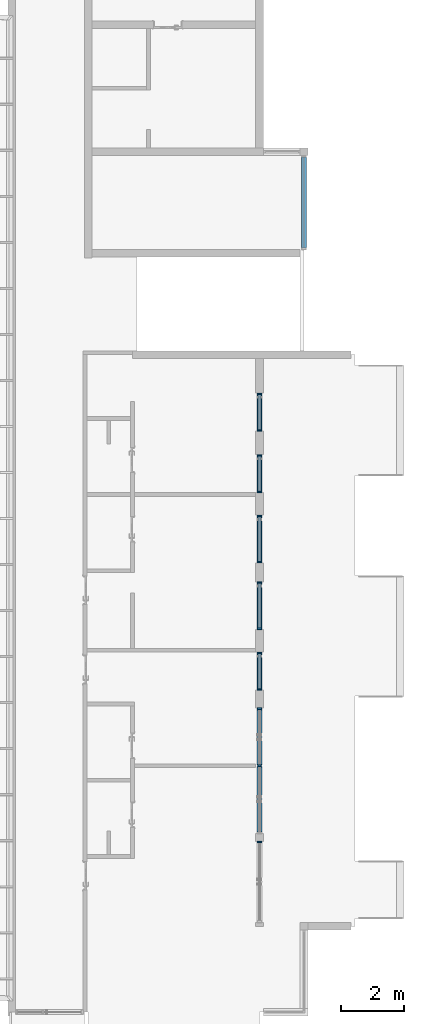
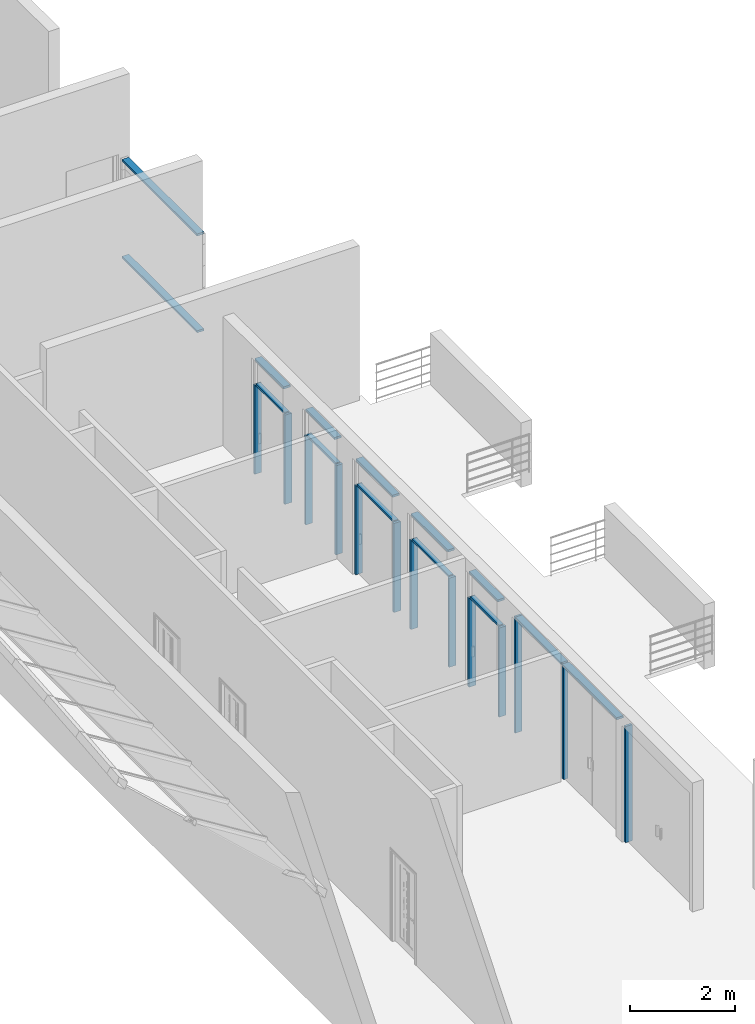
# One storey, part 6 of 33: 27 members, 8 elements without a shape of their own.
"""IFC2X3 building model written with IfcOpenShell, lengths in millimetres."""

import ifcopenshell
import ifcopenshell.guid

model = None  # the IFC model being written
_history = None  # IfcOwnerHistory: only IFC2X3 demands one
_inside = {}  # id of a spatial element -> (the spatial element, [elements in it])
_under = {}  # id of a project, library or spatial element -> (it, [spatial elements below it])
_declared = {}  # id of a project -> (the project, [libraries it declares])
_typed = {}  # id of a type object -> (the type object, [elements of that type])
_made_of = {}  # id of a material, layer set ... -> (it, [elements and type objects made of it])


def new_model(schema):
    """Start an empty IFC model of exactly this schema.

    Asked for "IFC4X3", IfcOpenShell would pick the latest addendum, in which some entities
    have other attributes; the version numbers below select the first issue.
    IFC2X3 requires an IfcOwnerHistory on every rooted entity: one is made here for all.
    """
    global model, _history
    if schema == "IFC4X3":
        model = ifcopenshell.file(schema_version=(4, 3, 0, 0))
    else:
        model = ifcopenshell.file(schema=schema)
    _inside.clear()
    _under.clear()
    _declared.clear()
    _typed.clear()
    _made_of.clear()
    _history = None
    if model.schema == "IFC2X3":
        org = make("IfcOrganization", Name="unknown")
        user = make(
            "IfcPersonAndOrganization",
            ThePerson=make("IfcPerson", FamilyName="unknown"),
            TheOrganization=org,
        )
        app = make(
            "IfcApplication",
            ApplicationDeveloper=org,
            Version="unknown",
            ApplicationFullName="unknown",
            ApplicationIdentifier="unknown",
        )
        _history = make(
            "IfcOwnerHistory",
            OwningUser=user,
            OwningApplication=app,
            ChangeAction="ADDED",
            CreationDate=0,
        )
    return model


def make(cls, **values):
    """One entity of the class cls with the attributes given. An attribute that is None is left unset."""
    return model.create_entity(
        cls, **{name: value for name, value in values.items() if value is not None}
    )


def entity(cls, *values):
    """Any entity or typed value of the class cls, its attributes in the order of the schema. None: left unset."""
    e = model.create_entity(cls)
    for i, value in enumerate(values):
        if value is not None:
            e[i] = value
    return e


def rooted(cls, **values):
    """An entity with a GlobalId (a new one), such as an element, a storey or a relation."""
    return make(cls, GlobalId=ifcopenshell.guid.new(), OwnerHistory=_history, **values)


def si_unit(unit_type, name, prefix=None):
    """IfcSIUnit, for example si_unit("LENGTHUNIT", "METRE", prefix="MILLI")."""
    return make("IfcSIUnit", UnitType=unit_type, Prefix=prefix, Name=name)


def converted_unit(unit_type, name, factor, base, dimensions=None, offset=None):
    """IfcConversionBasedUnit, such as the inch: factor (a typed value) times the base unit."""
    return make(
        "IfcConversionBasedUnit"
        if offset is None
        else "IfcConversionBasedUnitWithOffset",
        ConversionOffset=offset,
        Dimensions=None
        if dimensions is None
        else entity("IfcDimensionalExponents", *dimensions),
        UnitType=unit_type,
        Name=name,
        ConversionFactor=make(
            "IfcMeasureWithUnit", ValueComponent=factor, UnitComponent=base
        ),
    )


def derived_unit(unit_type, elements):
    """IfcDerivedUnit: a product of units, each with its exponent."""
    return make(
        "IfcDerivedUnit",
        Elements=[
            make("IfcDerivedUnitElement", Unit=unit, Exponent=power)
            for unit, power in elements
        ],
        UnitType=unit_type,
    )


def assignment(units):
    """IfcUnitAssignment: the units of a project."""
    return None if units is None else make("IfcUnitAssignment", Units=units)


def point(xyz):
    """IfcCartesianPoint."""
    return None if xyz is None else make("IfcCartesianPoint", Coordinates=xyz)


def direction(xyz):
    """IfcDirection."""
    return None if xyz is None else make("IfcDirection", DirectionRatios=xyz)


def frame(location, z_axis=None, x_axis=None):
    """IfcAxis2Placement3D, a coordinate frame: its origin and axes. An axis left out is left unset."""
    return make(
        "IfcAxis2Placement3D",
        Location=point(location),
        Axis=direction(z_axis),
        RefDirection=direction(x_axis),
    )


def frame_2d(location, x_axis=None):
    """IfcAxis2Placement2D, a coordinate frame in the plane: its origin and x axis."""
    return make(
        "IfcAxis2Placement2D", Location=point(location), RefDirection=direction(x_axis)
    )


def origin():
    """The frame at (0, 0, 0) with its axes left unset."""
    return frame((0.0, 0.0, 0.0))


def origin_2d_with_axis():
    """The frame at (0, 0) in the plane with the x axis (1, 0) written out."""
    return frame_2d((0.0, 0.0), x_axis=(1.0, 0.0))


def place(relative_to, where):
    """IfcLocalPlacement: puts the frame where relative to a parent placement (None: the world)."""
    return make(
        "IfcLocalPlacement", PlacementRelTo=relative_to, RelativePlacement=where
    )


def context(
    kind, dimensions, precision=None, world=None, true_north=None, identifier=None
):
    """IfcGeometricRepresentationContext, for example the 3D "Model" context."""
    return make(
        "IfcGeometricRepresentationContext",
        ContextIdentifier=identifier,
        ContextType=kind,
        CoordinateSpaceDimension=dimensions,
        Precision=precision,
        WorldCoordinateSystem=world,
        TrueNorth=true_north,
    )


def subcontext(parent, identifier, kind, view, scale=None):
    """IfcGeometricRepresentationSubContext, for example "Body" below "Model"."""
    return make(
        "IfcGeometricRepresentationSubContext",
        ContextIdentifier=identifier,
        ContextType=kind,
        ParentContext=parent,
        TargetScale=scale,
        TargetView=view,
    )


def project(units=None, contexts=None):
    """IfcProject with its units and contexts."""
    return rooted(
        "IfcProject",
        Name="project",
        RepresentationContexts=contexts,
        UnitsInContext=assignment(units),
    )


def spatial(cls, under=None, at=None, **own):
    """A site, building, storey or space (cls), placed at a placement, below another one or the project."""
    s = rooted(cls, ObjectPlacement=at, **own)
    if under is not None:
        _under.setdefault(under.id(), (under, []))[1].append(s)
    return s


def profile(cls, at=None, kind="AREA", **sizes):
    """A parametric profile (cls). Its sizes go by their IFC names, for example OverallWidth=200.0."""
    return make(cls, ProfileType=kind, Position=at, **sizes)


def rectangle(**sizes):
    """IfcRectangleProfileDef."""
    return profile("IfcRectangleProfileDef", **sizes)


def extrude(swept, where, along, depth):
    """IfcExtrudedAreaSolid: the profile swept, set in the frame where, extruded along a direction by depth."""
    return make(
        "IfcExtrudedAreaSolid",
        SweptArea=swept,
        Position=where,
        ExtrudedDirection=direction(along),
        Depth=depth,
    )


def shape(context_of_items, identifier, shape_type, items):
    """IfcShapeRepresentation: the items that make up one representation, for example the "Body"."""
    return make(
        "IfcShapeRepresentation",
        ContextOfItems=context_of_items,
        RepresentationIdentifier=identifier,
        RepresentationType=shape_type,
        Items=items,
    )


def source(mapping_origin, context_of_items, identifier, shape_type, items):
    """IfcRepresentationMap: a shape defined once, which mapped items show again and again."""
    return make(
        "IfcRepresentationMap",
        MappingOrigin=mapping_origin,
        MappedRepresentation=shape(context_of_items, identifier, shape_type, items),
    )


def transform(
    local_origin,
    x_axis=None,
    y_axis=None,
    z_axis=None,
    scale=None,
    scale2=None,
    scale3=None,
    uniform=True,
):
    """IfcCartesianTransformationOperator3D, or its non-uniform kind. x_axis, y_axis, z_axis: its Axis1, 2, 3."""
    if uniform:
        return make(
            "IfcCartesianTransformationOperator3D",
            Axis1=direction(x_axis),
            Axis2=direction(y_axis),
            LocalOrigin=point(local_origin),
            Scale=scale,
            Axis3=direction(z_axis),
        )
    return make(
        "IfcCartesianTransformationOperator3DnonUniform",
        Axis1=direction(x_axis),
        Axis2=direction(y_axis),
        LocalOrigin=point(local_origin),
        Scale=scale,
        Axis3=direction(z_axis),
        Scale2=scale2,
        Scale3=scale3,
    )


def mapped(mapping_source, mapping_target):
    """IfcMappedItem: shows the shape of a source again, moved by a transform."""
    return make(
        "IfcMappedItem", MappingSource=mapping_source, MappingTarget=mapping_target
    )


def material(Name=None, Category=None):
    """IfcMaterial."""
    return make("IfcMaterial", Name=Name, Category=Category)


def made_of(thing, what):
    """Note that an element or type object is made of a material, layer set ...; save() writes the relation."""
    if what is not None:
        _made_of.setdefault(what.id(), (what, []))[1].append(thing)
    return thing


def type_object(cls, material=None, **own):
    """A type object (cls), such as IfcWallType, which elements share."""
    return made_of(rooted(cls, **own), material)


def type_shapes(of_type, sources):
    """Give a type object the sources (RepresentationMaps) that its elements show as mapped items."""
    of_type.RepresentationMaps = sources


def element(
    cls,
    number,
    at=None,
    inside=None,
    cuts=None,
    type_object=None,
    material=None,
    context=None,
    identifier="Body",
    shape_type=None,
    held_by="IfcProductDefinitionShape",
    body=None,
    shapes=None,
    **own,
):
    """One element of the class cls, such as IfcWall. Its Tag is "e" and its number.

    at: its placement. inside: the storey or other place that contains it. cuts: it is an
    opening in that element (IfcRelVoidsElement). A single representation is given by context,
    identifier, shape_type and body (its items); several are given by shapes. held_by: the class
    of the entity that holds the representations. save() writes the other relations.
    """
    e = rooted(cls, Tag="e%d" % number, ObjectPlacement=at, **own)
    if body is not None:
        shapes = [shape(context, identifier, shape_type, body)]
    if shapes is not None:
        e.Representation = make(held_by, Representations=shapes)
    if inside is not None:
        _inside.setdefault(inside.id(), (inside, []))[1].append(e)
    if cuts is not None:
        rooted(
            "IfcRelVoidsElement", RelatingBuildingElement=cuts, RelatedOpeningElement=e
        )
    if type_object is not None:
        _typed.setdefault(type_object.id(), (type_object, []))[1].append(e)
    return made_of(e, material)


def aggregate(whole, parts):
    """IfcRelAggregates: a whole, such as a stair, and the parts it consists of."""
    return rooted("IfcRelAggregates", RelatingObject=whole, RelatedObjects=parts)


def save(model, path):
    """Write the relations noted so far, then the file.

    IfcRelAggregates (storeys below a building ...), IfcRelContainedInSpatialStructure (elements
    in a storey), IfcRelDefinesByType, IfcRelAssociatesMaterial and IfcRelDeclares: one each for
    every whole, place, type object, material and project.
    """
    for whole, parts in _under.values():
        aggregate(whole, parts)
    for where, things in _inside.values():
        rooted(
            "IfcRelContainedInSpatialStructure",
            RelatedElements=things,
            RelatingStructure=where,
        )
    for kind, things in _typed.values():
        rooted("IfcRelDefinesByType", RelatedObjects=things, RelatingType=kind)
    for what, things in _made_of.values():
        rooted("IfcRelAssociatesMaterial", RelatedObjects=things, RelatingMaterial=what)
    for by, libraries in _declared.values():
        rooted("IfcRelDeclares", RelatingContext=by, RelatedDefinitions=libraries)
    model.write(path)


model = new_model("IFC2X3")

# Units and contexts
model_context = context("Model", 3, precision=0.01, world=origin(), true_north=direction((6.12303176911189e-17, 1.0)))
body_context = subcontext(model_context, "Body", "Model", "MODEL_VIEW")
ifc_project = project(units=[si_unit("LENGTHUNIT", "METRE", prefix="MILLI"), si_unit("AREAUNIT", "SQUARE_METRE"), si_unit("VOLUMEUNIT", "CUBIC_METRE"), converted_unit("PLANEANGLEUNIT", "DEGREE", entity("IfcRatioMeasure", 0.0174532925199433), si_unit("PLANEANGLEUNIT", "RADIAN"), dimensions=[0, 0, 0, 0, 0, 0, 0]), si_unit("MASSUNIT", "GRAM", prefix="KILO"), derived_unit("MASSDENSITYUNIT", [(si_unit("MASSUNIT", "GRAM", prefix="KILO"), 1), (si_unit("LENGTHUNIT", "METRE"), -3)]), si_unit("TIMEUNIT", "SECOND"), si_unit("FREQUENCYUNIT", "HERTZ"), si_unit("THERMODYNAMICTEMPERATUREUNIT", "DEGREE_CELSIUS"), derived_unit("THERMALTRANSMITTANCEUNIT", [(si_unit("MASSUNIT", "GRAM", prefix="KILO"), 1), (si_unit("THERMODYNAMICTEMPERATUREUNIT", "KELVIN"), -1), (si_unit("TIMEUNIT", "SECOND"), -3)]), derived_unit("VOLUMETRICFLOWRATEUNIT", [(si_unit("LENGTHUNIT", "METRE"), 3), (si_unit("TIMEUNIT", "SECOND"), -1)]), si_unit("ELECTRICCURRENTUNIT", "AMPERE"), si_unit("ELECTRICVOLTAGEUNIT", "VOLT"), si_unit("POWERUNIT", "WATT"), si_unit("FORCEUNIT", "NEWTON", prefix="KILO"), si_unit("ILLUMINANCEUNIT", "LUX"), si_unit("LUMINOUSFLUXUNIT", "LUMEN"), si_unit("LUMINOUSINTENSITYUNIT", "CANDELA"), derived_unit("USERDEFINED", [(si_unit("MASSUNIT", "GRAM", prefix="KILO"), -1), (si_unit("LENGTHUNIT", "METRE"), -2), (si_unit("TIMEUNIT", "SECOND"), 3), (si_unit("LUMINOUSFLUXUNIT", "LUMEN"), 1)]), derived_unit("LINEARVELOCITYUNIT", [(si_unit("LENGTHUNIT", "METRE"), 1), (si_unit("TIMEUNIT", "SECOND"), -1)]), si_unit("PRESSUREUNIT", "PASCAL"), derived_unit("USERDEFINED", [(si_unit("LENGTHUNIT", "METRE"), -2), (si_unit("MASSUNIT", "GRAM", prefix="KILO"), 1), (si_unit("TIMEUNIT", "SECOND"), -2)])], contexts=[model_context])

# Site, building, storey
site_placement = place(None, origin())
site = spatial("IfcSite", under=ifc_project, at=site_placement, Name="表面", CompositionType="ELEMENT")
building_placement = place(site_placement, origin())
building = spatial("IfcBuilding", under=site, at=building_placement, CompositionType="ELEMENT")
storey_placement = place(building_placement, frame((0.0, 0.0, 6000.0)))
storey = spatial("IfcBuildingStorey", under=building, at=storey_placement, Name="3F", CompositionType="ELEMENT", Elevation=6000.00000000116)

# Curtain wall, members
curtain_wall_type_1 = type_object("IfcCurtainWallType", Name="幕墙:幕墙 2", PredefinedType="NOTDEFINED")
curtain_wall_1_placement = place(storey_placement, frame((0.0, 0.0, -6000.0)))
curtain_wall_1 = element("IfcCurtainWall", 1, at=curtain_wall_1_placement, inside=storey, type_object=curtain_wall_type_1, Name="幕墙:幕墙 2", ObjectType="幕墙:幕墙 2")
ifc_material = material(Name="金属 - 铝")
member_type_1 = type_object("IfcMemberType", Name="50 x 150mm", PredefinedType="MEMBER")
shared_shape_1 = source(origin(), body_context, "Body", "SweptSolid", [
    extrude(rectangle(XDim=150.0, YDim=50.0, at=origin_2d_with_axis()), frame((-25.0, 0.0, -2065.0), z_axis=(0.0, 0.0, 1.0), x_axis=(0.0, -1.0, 0.0)), (0.0, 0.0, 1.0), 2065.00000000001),
])
type_shapes(member_type_1, [shared_shape_1])
placement = place(building_placement, frame((0.0, 0.0, 3000.0)))
member_1_placement = place(placement, frame((-6630.24991264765, -23746.868426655, 5700.0), z_axis=(0.0, -1.0, 0.0), x_axis=(0.0, 0.0, 1.0)))
member_1 = element("IfcMember", 2, at=member_1_placement, type_object=member_type_1, material=ifc_material, Name="矩形竖梃:50 x 150mm", ObjectType="50 x 150mm", context=body_context, shape_type="MappedRepresentation", body=[
    mapped(shared_shape_1, transform((0.0, 0.0, 0.0), scale=1.0)),
])
member_type_2 = type_object("IfcMemberType", Name="50 x 150mm", PredefinedType="MEMBER")
shared_shape_2 = source(origin(), body_context, "Body", "SweptSolid", [
    extrude(rectangle(XDim=150.0, YDim=50.0, at=origin_2d_with_axis()), frame((-25.0, 0.0, -2700.0), z_axis=(0.0, 0.0, 1.0), x_axis=(0.0, -1.0, 0.0)), (0.0, 0.0, 1.0), 2700.0),
])
type_shapes(member_type_2, [shared_shape_2])
member_2_placement = place(placement, frame((-6630.24991264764, -19836.868426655, 5700.0), z_axis=(0.0, 0.0, 1.0), x_axis=(0.0, 1.0, 0.0)))
member_2 = element("IfcMember", 3, at=member_2_placement, type_object=member_type_2, material=ifc_material, Name="矩形竖梃:50 x 150mm", ObjectType="50 x 150mm", context=body_context, shape_type="MappedRepresentation", body=[
    mapped(shared_shape_2, transform((0.0, 0.0, 0.0), scale=1.0)),
])

# Curtain wall, member
curtain_wall_2_placement = place(storey_placement, frame((0.0, 0.0, -6000.0)))
curtain_wall_2 = element("IfcCurtainWall", 4, at=curtain_wall_2_placement, inside=storey, type_object=curtain_wall_type_1, Name="幕墙:幕墙 2", ObjectType="幕墙:幕墙 2")
member_3_placement = place(placement, frame((-6630.24991264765, -24036.868426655, 5700.0), z_axis=(0.0, 0.0, 1.0), x_axis=(0.0, 1.0, 0.0)))
member_3 = element("IfcMember", 5, at=member_3_placement, type_object=member_type_2, material=ifc_material, Name="矩形竖梃:50 x 150mm", ObjectType="50 x 150mm", context=body_context, shape_type="MappedRepresentation", body=[
    mapped(shared_shape_2, transform((0.0, 0.0, 0.0), scale=1.0)),
])
aggregate(curtain_wall_2, [member_3])

# Member
member_type_3 = type_object("IfcMemberType", Name="50 x 150mm", PredefinedType="MEMBER")
shared_shape_3 = source(origin(), body_context, "Body", "SweptSolid", [
    extrude(rectangle(XDim=150.0, YDim=50.0, at=origin_2d_with_axis()), frame((-25.0, 0.0, -1745.0), z_axis=(0.0, 0.0, 1.0), x_axis=(0.0, -1.0, 0.0)), (0.0, 0.0, 1.0), 1745.0),
])
type_shapes(member_type_3, [shared_shape_3])
member_4_placement = place(storey_placement, frame((-6630.24991264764, -21631.868426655, 2700.0), z_axis=(0.0, -1.0, 0.0), x_axis=(0.0, 0.0, 1.0)))
member_4 = element("IfcMember", 6, at=member_4_placement, type_object=member_type_3, material=ifc_material, Name="矩形竖梃:50 x 150mm", ObjectType="50 x 150mm", context=body_context, shape_type="MappedRepresentation", body=[
    mapped(shared_shape_3, transform((0.0, 0.0, 0.0), scale=1.0)),
])

member_type_4 = type_object("IfcMemberType", Name="50 x 100mm", PredefinedType="MEMBER")
shared_shape_4 = source(origin(), body_context, "Body", "SweptSolid", [
    extrude(rectangle(XDim=100.0, YDim=50.0, at=origin_2d_with_axis()), frame((0.0, 0.0, -2700.0), z_axis=(0.0, 0.0, 1.0), x_axis=(0.0, -1.0, 0.0)), (0.0, 0.0, 1.0), 2700.0),
])
type_shapes(member_type_4, [shared_shape_4])
member_5_placement = place(storey_placement, frame((-6630.24991264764, -21656.868426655, 0.0), z_axis=(0.0, 0.0, -1.0), x_axis=(0.0, -1.0, 0.0)))
member_5 = element("IfcMember", 7, at=member_5_placement, type_object=member_type_4, material=ifc_material, Name="矩形竖梃:50 x 100mm", ObjectType="50 x 100mm", context=body_context, shape_type="MappedRepresentation", body=[
    mapped(shared_shape_4, transform((0.0, 0.0, 0.0), scale=1.0)),
])

aggregate(curtain_wall_1, [member_1, member_2, member_4, member_5])

# Curtain wall, members
curtain_wall_type_2 = type_object("IfcCurtainWallType", Name="幕墙:幕墙 1", PredefinedType="NOTDEFINED")
curtain_wall_3_placement = place(storey_placement, frame((0.0, 0.0, -6000.0)))
curtain_wall_3 = element("IfcCurtainWall", 8, at=curtain_wall_3_placement, inside=storey, type_object=curtain_wall_type_2, Name="幕墙:幕墙 1", ObjectType="幕墙:幕墙 1")
member_type_5 = type_object("IfcMemberType", Name="50 x 150mm", PredefinedType="MEMBER")
shared_shape_5 = source(origin(), body_context, "Body", "SweptSolid", [
    extrude(rectangle(XDim=150.0, YDim=50.0, at=origin_2d_with_axis()), frame((-25.0, 0.0, -2860.0), z_axis=(0.0, 0.0, 1.0), x_axis=(0.0, -1.0, 0.0)), (0.0, 0.0, 1.0), 2860.0),
])
type_shapes(member_type_5, [shared_shape_5])
member_6_placement = place(storey_placement, frame((-5230.24991264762, -5346.868426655, 2300.0), z_axis=(0.0, -1.0, 0.0), x_axis=(0.0, 0.0, 1.0)))
member_6 = element("IfcMember", 9, at=member_6_placement, type_object=member_type_5, material=ifc_material, Name="矩形竖梃:50 x 150mm", ObjectType="50 x 150mm", context=body_context, shape_type="MappedRepresentation", body=[
    mapped(shared_shape_5, transform((0.0, 0.0, 0.0), scale=1.0)),
])
member_type_6 = type_object("IfcMemberType", Name="50 x 150mm", PredefinedType="MEMBER")
shared_shape_6 = source(origin(), body_context, "Body", "SweptSolid", [
    extrude(rectangle(XDim=150.0, YDim=50.0, at=origin_2d_with_axis()), frame((-25.0, 0.0, -2860.0), z_axis=(0.0, 0.0, 1.0), x_axis=(0.0, -1.0, 0.0)), (0.0, 0.0, 1.0), 2860.0),
])
type_shapes(member_type_6, [shared_shape_6])
member_7_placement = place(storey_placement, frame((-5230.24991264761, -2486.868426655, 0.0), z_axis=(0.0, 1.0, 0.0), x_axis=(0.0, 0.0, -1.0)))
member_7 = element("IfcMember", 10, at=member_7_placement, type_object=member_type_6, material=ifc_material, Name="矩形竖梃:50 x 150mm", ObjectType="50 x 150mm", context=body_context, shape_type="MappedRepresentation", body=[
    mapped(shared_shape_6, transform((0.0, 0.0, 0.0), scale=1.0)),
])
aggregate(curtain_wall_3, [member_6, member_7])

# Curtain wall, member
curtain_wall_type_3 = type_object("IfcCurtainWallType", Name="幕墙:幕墙 4", PredefinedType="NOTDEFINED")
curtain_wall_4_placement = place(storey_placement, frame((0.0, 0.0, -6000.0)))
curtain_wall_4 = element("IfcCurtainWall", 11, at=curtain_wall_4_placement, inside=storey, type_object=curtain_wall_type_3, Name="幕墙:幕墙 4", ObjectType="幕墙:幕墙 4")
member_type_7 = type_object("IfcMemberType", Name="50 x 150mm", PredefinedType="MEMBER")
shared_shape_7 = source(origin(), body_context, "Body", "SweptSolid", [
    extrude(rectangle(XDim=150.0, YDim=50.0, at=origin_2d_with_axis()), frame((-25.0, 0.0, -1100.0), z_axis=(0.0, 0.0, 1.0), x_axis=(0.0, -1.0, 0.0)), (0.0, 0.0, 1.0), 1100.0),
])
type_shapes(member_type_7, [shared_shape_7])
member_8_placement = place(storey_placement, frame((-6630.24991264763, -11906.868426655, 2700.0), z_axis=(0.0, 1.0, 0.0), x_axis=(0.0, 0.0, 1.0)))
member_8 = element("IfcMember", 12, at=member_8_placement, type_object=member_type_7, material=ifc_material, Name="矩形竖梃:50 x 150mm", ObjectType="50 x 150mm", context=body_context, shape_type="MappedRepresentation", body=[
    mapped(shared_shape_7, transform((0.0, 0.0, 0.0), scale=1.0)),
])

curtain_wall_5_placement = place(storey_placement, frame((0.0, 0.0, -6000.0)))
curtain_wall_5 = element("IfcCurtainWall", 13, at=curtain_wall_5_placement, inside=storey, type_object=curtain_wall_type_3, Name="幕墙:幕墙 4", ObjectType="幕墙:幕墙 4")
member_9_placement = place(storey_placement, frame((-6630.24991264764, -19226.868426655, 2700.0), z_axis=(0.0, -1.0, 0.0), x_axis=(0.0, 0.0, 1.0)))
member_9 = element("IfcMember", 14, at=member_9_placement, type_object=member_type_7, material=ifc_material, Name="矩形竖梃:50 x 150mm", ObjectType="50 x 150mm", context=body_context, shape_type="MappedRepresentation", body=[
    mapped(shared_shape_7, transform((0.0, 0.0, 0.0), scale=1.0)),
])

curtain_wall_6_placement = place(storey_placement, frame((0.0, 0.0, -6000.0)))
curtain_wall_6 = element("IfcCurtainWall", 15, at=curtain_wall_6_placement, inside=storey, type_object=curtain_wall_type_3, Name="幕墙:幕墙 4", ObjectType="幕墙:幕墙 4")
member_10_placement = place(storey_placement, frame((-6630.24991264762, -9966.868426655, 2700.0), z_axis=(0.0, 1.0, 0.0), x_axis=(0.0, 0.0, 1.0)))
member_10 = element("IfcMember", 16, at=member_10_placement, type_object=member_type_7, material=ifc_material, Name="矩形竖梃:50 x 150mm", ObjectType="50 x 150mm", context=body_context, shape_type="MappedRepresentation", body=[
    mapped(shared_shape_7, transform((0.0, 0.0, 0.0), scale=1.0)),
])

# Member
member_type_8 = type_object("IfcMemberType", Name="50 x 150mm", PredefinedType="MEMBER")
shared_shape_8 = source(origin(), body_context, "Body", "SweptSolid", [
    extrude(rectangle(XDim=150.0, YDim=50.0, at=origin_2d_with_axis()), frame((-25.0, 0.0, -2075.0), z_axis=(0.0, 0.0, 1.0), x_axis=(0.0, -1.0, 0.0)), (0.0, 0.0, 1.0), 2075.0),
])
type_shapes(member_type_8, [shared_shape_8])
member_11_placement = place(storey_placement, frame((-6630.24991264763, -11856.868426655, 0.0), z_axis=(0.0, 0.0, -1.0), x_axis=(0.0, 1.0, 0.0)))
member_11 = element("IfcMember", 17, at=member_11_placement, type_object=member_type_8, material=ifc_material, Name="矩形竖梃:50 x 150mm", ObjectType="50 x 150mm", context=body_context, shape_type="MappedRepresentation", body=[
    mapped(shared_shape_8, transform((0.0, 0.0, 0.0), scale=1.0)),
])

# Curtain wall, member
curtain_wall_7_placement = place(storey_placement, frame((0.0, 0.0, -6000.0)))
curtain_wall_7 = element("IfcCurtainWall", 18, at=curtain_wall_7_placement, inside=storey, type_object=curtain_wall_type_3, Name="幕墙:幕墙 4", ObjectType="幕墙:幕墙 4")
member_12_placement = place(storey_placement, frame((-6630.24991264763, -15266.868426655, 0.0), z_axis=(0.0, 0.0, -1.0), x_axis=(0.0, -1.0, 0.0)))
member_12 = element("IfcMember", 19, at=member_12_placement, type_object=member_type_8, material=ifc_material, Name="矩形竖梃:50 x 150mm", ObjectType="50 x 150mm", context=body_context, shape_type="MappedRepresentation", body=[
    mapped(shared_shape_8, transform((0.0, 0.0, 0.0), scale=1.0)),
])

# Member
member_13_placement = place(storey_placement, frame((-6630.24991264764, -19276.868426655, 0.0), z_axis=(0.0, 0.0, -1.0), x_axis=(0.0, -1.0, 0.0)))
member_13 = element("IfcMember", 20, at=member_13_placement, type_object=member_type_8, material=ifc_material, Name="矩形竖梃:50 x 150mm", ObjectType="50 x 150mm", context=body_context, shape_type="MappedRepresentation", body=[
    mapped(shared_shape_8, transform((0.0, 0.0, 0.0), scale=1.0)),
])

member_14_placement = place(storey_placement, frame((-6630.24991264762, -9916.868426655, 0.0), z_axis=(0.0, 0.0, -1.0), x_axis=(0.0, 1.0, 0.0)))
member_14 = element("IfcMember", 21, at=member_14_placement, type_object=member_type_8, material=ifc_material, Name="矩形竖梃:50 x 150mm", ObjectType="50 x 150mm", context=body_context, shape_type="MappedRepresentation", body=[
    mapped(shared_shape_8, transform((0.0, 0.0, 0.0), scale=1.0)),
])

# Curtain wall, member
curtain_wall_8_placement = place(storey_placement, frame((0.0, 0.0, -6000.0)))
curtain_wall_8 = element("IfcCurtainWall", 22, at=curtain_wall_8_placement, inside=storey, type_object=curtain_wall_type_3, Name="幕墙:幕墙 4", ObjectType="幕墙:幕墙 4")
member_15_placement = place(storey_placement, frame((-6630.24991264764, -17366.868426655, 0.0), z_axis=(0.0, 0.0, -1.0), x_axis=(0.0, -1.0, 0.0)))
member_15 = element("IfcMember", 23, at=member_15_placement, type_object=member_type_8, material=ifc_material, Name="矩形竖梃:50 x 150mm", ObjectType="50 x 150mm", context=body_context, shape_type="MappedRepresentation", body=[
    mapped(shared_shape_8, transform((0.0, 0.0, 0.0), scale=1.0)),
])

# Member
member_type_9 = type_object("IfcMemberType", Name="50 x 150mm", PredefinedType="MEMBER")
shared_shape_9 = source(origin(), body_context, "Body", "SweptSolid", [
    extrude(rectangle(XDim=150.0, YDim=50.0, at=origin_2d_with_axis()), frame((-25.0, 0.0, -2075.0), z_axis=(0.0, 0.0, 1.0), x_axis=(0.0, -1.0, 0.0)), (0.0, 0.0, 1.0), 2075.0),
])
type_shapes(member_type_9, [shared_shape_9])
member_16_placement = place(storey_placement, frame((-6630.24991264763, -13056.868426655, 2075.0), z_axis=(0.0, 0.0, 1.0), x_axis=(0.0, -1.0, 0.0)))
member_16 = element("IfcMember", 24, at=member_16_placement, type_object=member_type_9, material=ifc_material, Name="矩形竖梃:50 x 150mm", ObjectType="50 x 150mm", context=body_context, shape_type="MappedRepresentation", body=[
    mapped(shared_shape_9, transform((0.0, 0.0, 0.0), scale=1.0)),
])

member_17_placement = place(storey_placement, frame((-6630.24991264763, -13766.868426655, 2075.0), z_axis=(0.0, 0.0, 1.0), x_axis=(0.0, 1.0, 0.0)))
member_17 = element("IfcMember", 25, at=member_17_placement, type_object=member_type_9, material=ifc_material, Name="矩形竖梃:50 x 150mm", ObjectType="50 x 150mm", context=body_context, shape_type="MappedRepresentation", body=[
    mapped(shared_shape_9, transform((0.0, 0.0, 0.0), scale=1.0)),
])

member_18_placement = place(storey_placement, frame((-6630.24991264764, -18076.868426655, 2075.0), z_axis=(0.0, 0.0, 1.0), x_axis=(0.0, 1.0, 0.0)))
member_18 = element("IfcMember", 26, at=member_18_placement, type_object=member_type_9, material=ifc_material, Name="矩形竖梃:50 x 150mm", ObjectType="50 x 150mm", context=body_context, shape_type="MappedRepresentation", body=[
    mapped(shared_shape_9, transform((0.0, 0.0, 0.0), scale=1.0)),
])

member_19_placement = place(storey_placement, frame((-6630.24991264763, -11116.868426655, 2075.0), z_axis=(0.0, 0.0, 1.0), x_axis=(0.0, -1.0, 0.0)))
member_19 = element("IfcMember", 27, at=member_19_placement, type_object=member_type_9, material=ifc_material, Name="矩形竖梃:50 x 150mm", ObjectType="50 x 150mm", context=body_context, shape_type="MappedRepresentation", body=[
    mapped(shared_shape_9, transform((0.0, 0.0, 0.0), scale=1.0)),
])

member_20_placement = place(storey_placement, frame((-6630.24991264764, -15866.868426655, 2075.0), z_axis=(0.0, 0.0, 1.0), x_axis=(0.0, 1.0, 0.0)))
member_20 = element("IfcMember", 28, at=member_20_placement, type_object=member_type_9, material=ifc_material, Name="矩形竖梃:50 x 150mm", ObjectType="50 x 150mm", context=body_context, shape_type="MappedRepresentation", body=[
    mapped(shared_shape_9, transform((0.0, 0.0, 0.0), scale=1.0)),
])

member_type_10 = type_object("IfcMemberType", Name="50 x 100mm", PredefinedType="MEMBER")
shared_shape_10 = source(origin(), body_context, "Body", "SweptSolid", [
    extrude(rectangle(XDim=100.0, YDim=50.0, at=origin_2d_with_axis()), frame((0.0, 0.0, -1100.0), z_axis=(0.0, 0.0, 1.0), x_axis=(0.0, -1.0, 0.0)), (0.0, 0.0, 1.0), 1100.0),
])
type_shapes(member_type_10, [shared_shape_10])
member_21_placement = place(storey_placement, frame((-6630.24991264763, -11906.868426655, 2075.0), z_axis=(0.0, 1.0, 0.0), x_axis=(0.0, 0.0, 1.0)))
member_21 = element("IfcMember", 29, at=member_21_placement, type_object=member_type_10, material=ifc_material, Name="矩形竖梃:50 x 100mm", ObjectType="50 x 100mm", context=body_context, shape_type="MappedRepresentation", body=[
    mapped(shared_shape_10, transform((0.0, 0.0, 0.0), scale=1.0)),
])

aggregate(curtain_wall_4, [member_8, member_11, member_16, member_21])

member_22_placement = place(storey_placement, frame((-6630.24991264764, -19226.868426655, 2075.0), z_axis=(0.0, -1.0, 0.0), x_axis=(0.0, 0.0, 1.0)))
member_22 = element("IfcMember", 30, at=member_22_placement, type_object=member_type_10, material=ifc_material, Name="矩形竖梃:50 x 100mm", ObjectType="50 x 100mm", context=body_context, shape_type="MappedRepresentation", body=[
    mapped(shared_shape_10, transform((0.0, 0.0, 0.0), scale=1.0)),
])

aggregate(curtain_wall_5, [member_9, member_13, member_18, member_22])

member_23_placement = place(storey_placement, frame((-6630.24991264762, -9966.868426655, 2075.0), z_axis=(0.0, 1.0, 0.0), x_axis=(0.0, 0.0, 1.0)))
member_23 = element("IfcMember", 31, at=member_23_placement, type_object=member_type_10, material=ifc_material, Name="矩形竖梃:50 x 100mm", ObjectType="50 x 100mm", context=body_context, shape_type="MappedRepresentation", body=[
    mapped(shared_shape_10, transform((0.0, 0.0, 0.0), scale=1.0)),
])

aggregate(curtain_wall_6, [member_10, member_14, member_19, member_23])

member_type_11 = type_object("IfcMemberType", Name="50 x 150mm", PredefinedType="MEMBER")
shared_shape_11 = source(origin(), body_context, "Body", "SweptSolid", [
    extrude(rectangle(XDim=150.0, YDim=50.0, at=origin_2d_with_axis()), frame((-25.0, 0.0, -1400.0), z_axis=(0.0, 0.0, 1.0), x_axis=(0.0, -1.0, 0.0)), (0.0, 0.0, 1.0), 1400.0),
])
type_shapes(member_type_11, [shared_shape_11])
member_24_placement = place(storey_placement, frame((-6630.24991264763, -15216.868426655, 2700.0), z_axis=(0.0, -1.0, 0.0), x_axis=(0.0, 0.0, 1.0)))
member_24 = element("IfcMember", 32, at=member_24_placement, type_object=member_type_11, material=ifc_material, Name="矩形竖梃:50 x 150mm", ObjectType="50 x 150mm", context=body_context, shape_type="MappedRepresentation", body=[
    mapped(shared_shape_11, transform((0.0, 0.0, 0.0), scale=1.0)),
])

member_25_placement = place(storey_placement, frame((-6630.24991264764, -17316.868426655, 2700.0), z_axis=(0.0, -1.0, 0.0), x_axis=(0.0, 0.0, 1.0)))
member_25 = element("IfcMember", 33, at=member_25_placement, type_object=member_type_11, material=ifc_material, Name="矩形竖梃:50 x 150mm", ObjectType="50 x 150mm", context=body_context, shape_type="MappedRepresentation", body=[
    mapped(shared_shape_11, transform((0.0, 0.0, 0.0), scale=1.0)),
])

member_type_12 = type_object("IfcMemberType", Name="50 x 100mm", PredefinedType="MEMBER")
shared_shape_12 = source(origin(), body_context, "Body", "SweptSolid", [
    extrude(rectangle(XDim=100.0, YDim=50.0, at=origin_2d_with_axis()), frame((0.0, 0.0, -1400.0), z_axis=(0.0, 0.0, 1.0), x_axis=(0.0, -1.0, 0.0)), (0.0, 0.0, 1.0), 1400.0),
])
type_shapes(member_type_12, [shared_shape_12])
member_26_placement = place(storey_placement, frame((-6630.24991264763, -15216.868426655, 2075.0), z_axis=(0.0, -1.0, 0.0), x_axis=(0.0, 0.0, 1.0)))
member_26 = element("IfcMember", 34, at=member_26_placement, type_object=member_type_12, material=ifc_material, Name="矩形竖梃:50 x 100mm", ObjectType="50 x 100mm", context=body_context, shape_type="MappedRepresentation", body=[
    mapped(shared_shape_12, transform((0.0, 0.0, 0.0), scale=1.0)),
])

aggregate(curtain_wall_7, [member_24, member_12, member_17, member_26])

member_27_placement = place(storey_placement, frame((-6630.24991264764, -17316.868426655, 2075.0), z_axis=(0.0, -1.0, 0.0), x_axis=(0.0, 0.0, 1.0)))
member_27 = element("IfcMember", 35, at=member_27_placement, type_object=member_type_12, material=ifc_material, Name="矩形竖梃:50 x 100mm", ObjectType="50 x 100mm", context=body_context, shape_type="MappedRepresentation", body=[
    mapped(shared_shape_12, transform((0.0, 0.0, 0.0), scale=1.0)),
])

aggregate(curtain_wall_8, [member_25, member_15, member_20, member_27])

save(model, "model.ifc")
